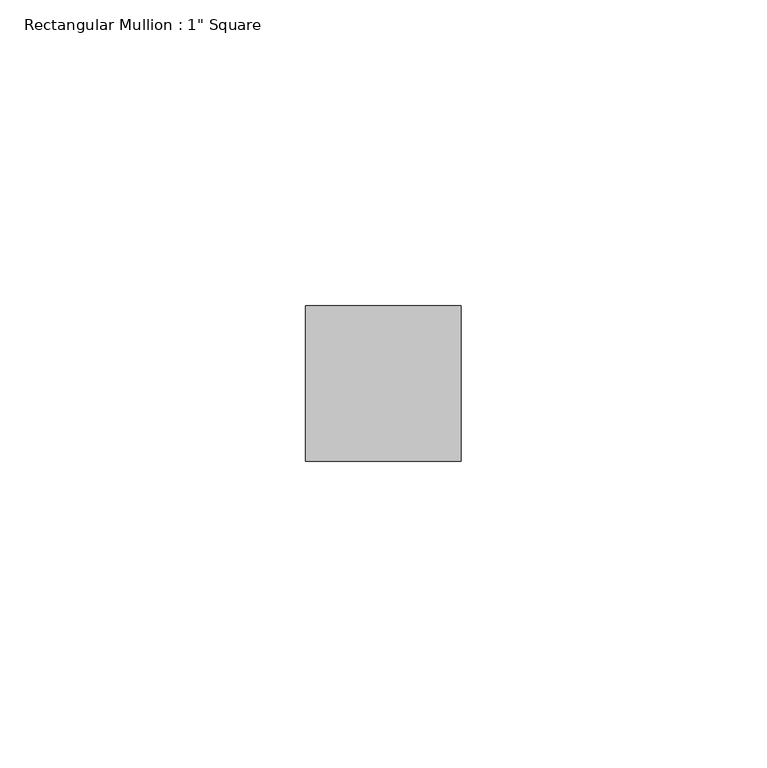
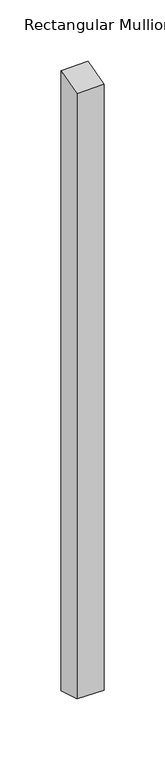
"""IFC4 building model written with IfcOpenShell, lengths in millimetres: member geometry."""

from ifc_helpers import new_model, si_unit, origin, place, context, project, spatial, faceted_brep, source, transform, mapped, element, save


def member_264a49eb(model_context):
    return source(origin(), model_context, "Body", "Brep", [
        faceted_brep([(-25.4, 12.7, 3.2666618), (0.0, 12.7, 3.7020454), (0.0, 12.7, -613.3020454), (-25.4, 12.7, -612.8666618), (-25.4, -12.7, -4.1374289), (-25.4, -12.7, -605.4625711), (0.0, -12.7, -3.7020454), (0.0, -12.7, -605.8979546)], [[[0, 1, 2, 3]], [[4, 0, 3, 5]], [[6, 4, 5, 7]], [[1, 6, 7, 2]], [[1, 0, 4, 6]], [[2, 7, 5, 3]]]),
    ])


if __name__ == "__main__":
    model = new_model("IFC4")
    model_context = context("Model", 3, world=origin())
    ifc_project = project(units=[si_unit("LENGTHUNIT", "METRE", prefix="MILLI")], contexts=[model_context])
    site = spatial("IfcSite", under=ifc_project)
    building = spatial("IfcBuilding", under=site)
    placement = place(None, origin())
    member_shape = member_264a49eb(model_context)
    element("IfcMember", 1, ObjectType="Rectangular Mullion : 1\" Square", at=placement, inside=building, context=model_context, shape_type="MappedRepresentation", body=[
        mapped(member_shape, transform((0.0, 0.0, 0.0), x_axis=(1.0, 0.0, 0.0), y_axis=(0.0, 1.0, 0.0), z_axis=(0.0, 0.0, 1.0))),
    ])
    save(model, "model.ifc")
